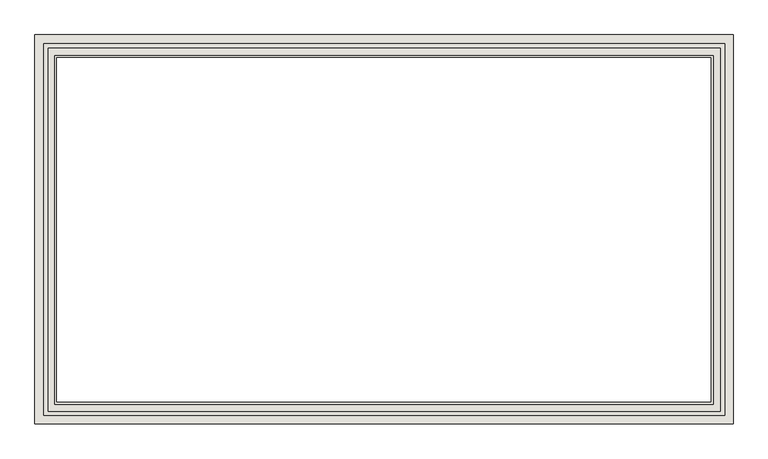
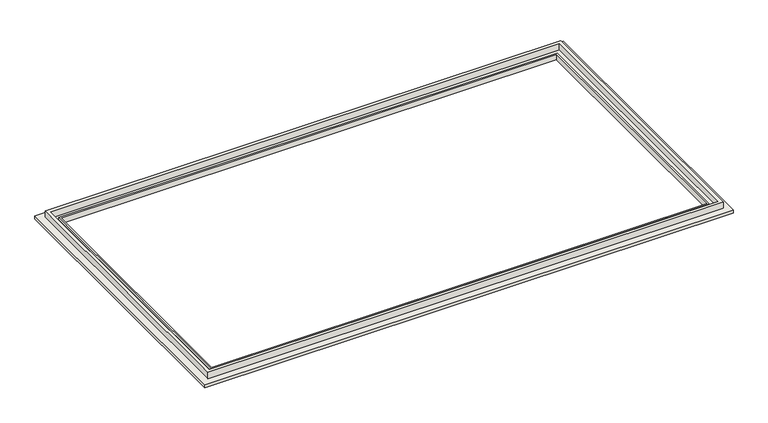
"""IFC4 building model written with IfcOpenShell, lengths in millimetres: wall geometry, 間接照明 : 間接照明."""

from ifc_helpers import new_model, si_unit, frame, origin, place, context, project, spatial, polyline, outline, extrude, source, transform, mapped, element, save


def wall_4f85f43c(model_context):
    return source(origin(), model_context, "Body", "SweptSolid", [
        extrude(outline(polyline([(12697.4473407, -4484.8205358), (-2337.5526593, -4484.8205358), (-2337.5526593, 3480.1794642), (12697.4473407, 3480.1794642), (12697.4473407, -4484.8205358)]), holes=[polyline([(-2287.5526593, 3430.1794642), (-2287.5526593, -4434.8205358), (12647.4473407, -4434.8205358), (12647.4473407, 3430.1794642), (-2287.5526593, 3430.1794642)])]), frame((0.0, 0.0, 2700.1), z_axis=(0.0, 0.0, 1.0), x_axis=(1.0, 0.0, 0.0)), (0.0, 0.0, 1.0), 169.9),
        extrude(outline(polyline([(12962.4473407, 3755.1794642), (12962.4473407, -4744.8205358), (-2587.5526593, -4744.8205358), (-2587.5526593, 3755.1794642), (12962.4473407, 3755.1794642)]), holes=[polyline([(12862.4473407, 3655.1794642), (-2487.5526593, 3655.1794642), (-2487.5526593, -4644.8205358), (12862.4473407, -4644.8205358), (12862.4473407, 3655.1794642)])]), frame((0.0, 0.0, 2700.1), z_axis=(0.0, 0.0, 1.0), x_axis=(1.0, 0.0, 0.0)), (0.0, 0.0, 1.0), 299.9),
        extrude(outline(polyline([(-2787.5526593, 3955.1794642), (13152.4473407, 3955.1794642), (13152.4473407, -4934.8205358), (-2787.5526593, -4934.8205358), (-2787.5526593, 3955.1794642)]), holes=[polyline([(12652.4473407, 3455.1794642), (-2287.5526593, 3455.1794642), (-2287.5526593, -4434.8205358), (12652.4473407, -4434.8205358), (12652.4473407, 3455.1794642)])]), frame((0.0, 0.0, 2700.1), z_axis=(0.0, 0.0, 1.0), x_axis=(1.0, 0.0, 0.0)), (0.0, 0.0, 1.0), 99.9),
    ])


if __name__ == "__main__":
    model = new_model("IFC4")
    model_context = context("Model", 3, world=origin())
    ifc_project = project(units=[si_unit("LENGTHUNIT", "METRE", prefix="MILLI")], contexts=[model_context])
    site = spatial("IfcSite", under=ifc_project)
    building = spatial("IfcBuilding", under=site)
    placement = place(None, origin())
    wall_shape = wall_4f85f43c(model_context)
    element("IfcWall", 1, ObjectType="間接照明 : 間接照明", at=placement, inside=building, context=model_context, shape_type="MappedRepresentation", body=[
        mapped(wall_shape, transform((0.0, 0.0, 0.0), x_axis=(1.0, 0.0, 0.0), y_axis=(0.0, 1.0, 0.0), z_axis=(0.0, 0.0, 1.0))),
    ])
    save(model, "model.ifc")
